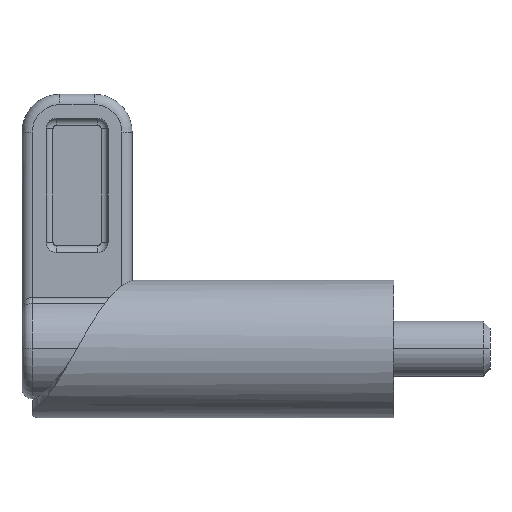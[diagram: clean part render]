
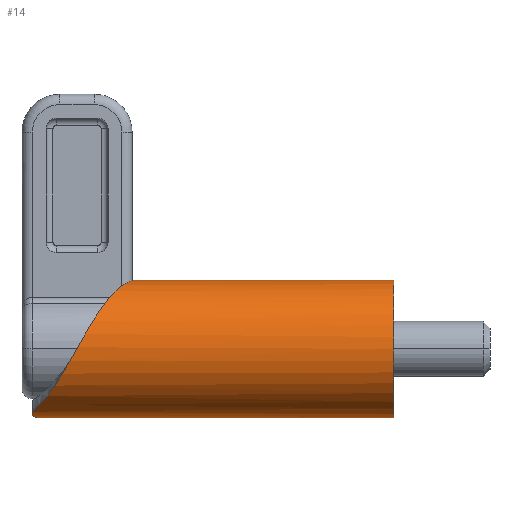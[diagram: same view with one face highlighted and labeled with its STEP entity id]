
A CAD part, left-side view. The second image highlights one B-rep face of the part: STEP entity #14.
In plain terms, the highlighted cylindrical face has radius 10 mm (diameter 20 mm), a partial arc.
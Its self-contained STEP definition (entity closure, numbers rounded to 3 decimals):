
#14 = ADVANCED_FACE ( 'NONE', ( #1708 ), #772, .T. ) ;
#41 = CARTESIAN_POINT ( 'NONE',  ( 0., 37.8, 10. ) ) ;
#60 = CARTESIAN_POINT ( 'NONE',  ( -0.36, 37.812, 9.995 ) ) ;
#77 = CARTESIAN_POINT ( 'NONE',  ( -2.057, 38.369, 9.786 ) ) ;
#133 = VERTEX_POINT ( 'NONE', #41 ) ;
#134 = DIRECTION ( 'NONE',  ( 0., 0., 1. ) ) ;
#175 = CARTESIAN_POINT ( 'NONE',  ( -9.683, 47.494, -2.551 ) ) ;
#208 = CARTESIAN_POINT ( 'NONE',  ( -3.078, 38.962, 9.529 ) ) ;
#338 = AXIS2_PLACEMENT_3D ( 'NONE', #1620, #567, #134 ) ;
#366 = CARTESIAN_POINT ( 'NONE',  ( 0., 0., -10. ) ) ;
#367 = ORIENTED_EDGE ( 'NONE', *, *, #1451, .F. ) ;
#371 = CARTESIAN_POINT ( 'NONE',  ( 0., 0., -10. ) ) ;
#381 = ORIENTED_EDGE ( 'NONE', *, *, #957, .T. ) ;
#414 = LINE ( 'NONE', #371, #1116 ) ;
#435 = CARTESIAN_POINT ( 'NONE',  ( -9.789, 44.849, 2.111 ) ) ;
#446 = CARTESIAN_POINT ( 'NONE',  ( -1.574, 52.101, -9.883 ) ) ;
#448 = CARTESIAN_POINT ( 'NONE',  ( -5.871, 40.728, 8.112 ) ) ;
#456 = B_SPLINE_CURVE_WITH_KNOTS ( 'NONE', 3,
 ( #663, #2429, #446, #938, #1541, #909, #2670, #2200 ),
 .UNSPECIFIED., .F., .F.,
 ( 4, 2, 2, 4 ),
 ( 0., 0.001, 0.002, 0.002 ),
 .UNSPECIFIED. ) ;
#517 = CIRCLE ( 'NONE', #338, 10. ) ;
#555 = CARTESIAN_POINT ( 'NONE',  ( 0., 0., 0. ) ) ;
#556 = CARTESIAN_POINT ( 'NONE',  ( -4.599, 52.204, -8.896 ) ) ;
#567 = DIRECTION ( 'NONE',  ( 0., 1., 0. ) ) ;
#595 = ORIENTED_EDGE ( 'NONE', *, *, #2477, .T. ) ;
#601 = B_SPLINE_CURVE_WITH_KNOTS ( 'NONE', 3,
 ( #2700, #737, #60, #913, #1161, #696, #2247, #2482 ),
 .UNSPECIFIED., .F., .F.,
 ( 4, 2, 2, 4 ),
 ( 0.019, 0.019, 0.02, 0.021 ),
 .UNSPECIFIED. ) ;
#604 = DIRECTION ( 'NONE',  ( 0., 0., -1. ) ) ;
#622 = CARTESIAN_POINT ( 'NONE',  ( 0., 0., 10. ) ) ;
#625 = CARTESIAN_POINT ( 'NONE',  ( -9.537, 47.788, -3.053 ) ) ;
#639 = CARTESIAN_POINT ( 'NONE',  ( -9.896, 46.909, -1.532 ) ) ;
#653 = EDGE_CURVE ( 'NONE', #1248, #1113, #2447, .T. ) ;
#663 = CARTESIAN_POINT ( 'NONE',  ( -2.261, 52.5, -9.741 ) ) ;
#665 = CARTESIAN_POINT ( 'NONE',  ( -9.232, 43.819, 3.852 ) ) ;
#696 = CARTESIAN_POINT ( 'NONE',  ( -1.419, 38.043, 9.905 ) ) ;
#737 = CARTESIAN_POINT ( 'NONE',  ( -0.18, 37.8, 10. ) ) ;
#772 = CYLINDRICAL_SURFACE ( 'NONE', #1363, 10. ) ;
#829 = DIRECTION ( 'NONE',  ( 0., -1., 0. ) ) ;
#837 = CARTESIAN_POINT ( 'NONE',  ( -4.062, 39.554, 9.153 ) ) ;
#874 = CARTESIAN_POINT ( 'NONE',  ( 0., 52.5, 0. ) ) ;
#909 = CARTESIAN_POINT ( 'NONE',  ( -0.402, 51.815, -9.994 ) ) ;
#913 = CARTESIAN_POINT ( 'NONE',  ( -0.718, 37.861, 9.976 ) ) ;
#932 = EDGE_CURVE ( 'NONE', #1318, #1863, #414, .T. ) ;
#938 = CARTESIAN_POINT ( 'NONE',  ( -0.996, 51.921, -9.952 ) ) ;
#957 = EDGE_CURVE ( 'NONE', #1248, #2303, #2731, .T. ) ;
#1058 = CARTESIAN_POINT ( 'NONE',  ( -9.962, 46.616, -1.016 ) ) ;
#1089 = CARTESIAN_POINT ( 'NONE',  ( -2.572, 38.668, 9.678 ) ) ;
#1113 = VERTEX_POINT ( 'NONE', #1551 ) ;
#1116 = VECTOR ( 'NONE', #2179, 1000. ) ;
#1119 = CARTESIAN_POINT ( 'NONE',  ( -9.584, 44.409, 2.865 ) ) ;
#1161 = CARTESIAN_POINT ( 'NONE',  ( -0.898, 37.898, 9.961 ) ) ;
#1189 = ORIENTED_EDGE ( 'NONE', *, *, #932, .T. ) ;
#1248 = VERTEX_POINT ( 'NONE', #2082 ) ;
#1307 = CARTESIAN_POINT ( 'NONE',  ( -7.475, 50.143, -6.663 ) ) ;
#1318 = VERTEX_POINT ( 'NONE', #2590 ) ;
#1363 = AXIS2_PLACEMENT_3D ( 'NONE', #555, #2591, #604 ) ;
#1436 = DIRECTION ( 'NONE',  ( 0., -1., 0. ) ) ;
#1451 = EDGE_CURVE ( 'NONE', #133, #2762, #2325, .T. ) ;
#1498 = CARTESIAN_POINT ( 'NONE',  ( -9.163, 48.381, -4.039 ) ) ;
#1515 = CARTESIAN_POINT ( 'NONE',  ( -9.885, 45.141, 1.599 ) ) ;
#1528 = CARTESIAN_POINT ( 'NONE',  ( -7.244, 41.761, 6.898 ) ) ;
#1541 = CARTESIAN_POINT ( 'NONE',  ( -0.799, 51.875, -9.97 ) ) ;
#1544 = CARTESIAN_POINT ( 'NONE',  ( -5.056, 51.909, -8.643 ) ) ;
#1551 = CARTESIAN_POINT ( 'NONE',  ( -2.057, 38.369, 9.786 ) ) ;
#1558 = CARTESIAN_POINT ( 'NONE',  ( -8.122, 42.498, 5.927 ) ) ;
#1559 = CARTESIAN_POINT ( 'NONE',  ( -2.261, 52.5, -9.741 ) ) ;
#1612 = ORIENTED_EDGE ( 'NONE', *, *, #1786, .T. ) ;
#1620 = CARTESIAN_POINT ( 'NONE',  ( 0., 0., 0. ) ) ;
#1683 = EDGE_CURVE ( 'NONE', #2303, #1318, #456, .T. ) ;
#1708 = FACE_OUTER_BOUND ( 'NONE', #1832, .T. ) ;
#1726 = CARTESIAN_POINT ( 'NONE',  ( -9.33, 43.968, 3.607 ) ) ;
#1742 = CARTESIAN_POINT ( 'NONE',  ( -4.117, 52.5, -9.113 ) ) ;
#1765 = DIRECTION ( 'NONE',  ( 0., 0., -1. ) ) ;
#1772 = CARTESIAN_POINT ( 'NONE',  ( -8.129, 49.554, -5.848 ) ) ;
#1781 = ORIENTED_EDGE ( 'NONE', *, *, #653, .F. ) ;
#1786 = EDGE_CURVE ( 'NONE', #1863, #2762, #517, .T. ) ;
#1832 = EDGE_LOOP ( 'NONE', ( #367, #595, #1781, #381, #2295, #1189, #1612 ) ) ;
#1863 = VERTEX_POINT ( 'NONE', #366 ) ;
#1946 = CARTESIAN_POINT ( 'NONE',  ( -7.111, 50.44, -7.05 ) ) ;
#1965 = CARTESIAN_POINT ( 'NONE',  ( -6.48, 41.169, 7.621 ) ) ;
#1992 = CARTESIAN_POINT ( 'NONE',  ( -5.441, 40.436, 8.406 ) ) ;
#2082 = CARTESIAN_POINT ( 'NONE',  ( -4.117, 52.5, -9.113 ) ) ;
#2155 = CARTESIAN_POINT ( 'NONE',  ( -5.924, 51.32, -8.073 ) ) ;
#2179 = DIRECTION ( 'NONE',  ( 0., -1., 0. ) ) ;
#2187 = CARTESIAN_POINT ( 'NONE',  ( -4.538, 39.85, 8.926 ) ) ;
#2200 = CARTESIAN_POINT ( 'NONE',  ( 0., 51.8, -10. ) ) ;
#2216 = CARTESIAN_POINT ( 'NONE',  ( -8.939, 48.675, -4.513 ) ) ;
#2247 = CARTESIAN_POINT ( 'NONE',  ( -1.749, 38.185, 9.851 ) ) ;
#2295 = ORIENTED_EDGE ( 'NONE', *, *, #1683, .T. ) ;
#2303 = VERTEX_POINT ( 'NONE', #1559 ) ;
#2305 = VECTOR ( 'NONE', #1436, 1000. ) ;
#2306 = AXIS2_PLACEMENT_3D ( 'NONE', #874, #829, #1765 ) ;
#2325 = LINE ( 'NONE', #2563, #2305 ) ;
#2391 = CARTESIAN_POINT ( 'NONE',  ( -6.336, 51.028, -7.754 ) ) ;
#2429 = CARTESIAN_POINT ( 'NONE',  ( -1.931, 52.274, -9.818 ) ) ;
#2431 = CARTESIAN_POINT ( 'NONE',  ( -6.677, 41.316, 7.449 ) ) ;
#2447 = B_SPLINE_CURVE_WITH_KNOTS ( 'NONE', 3,
 ( #1742, #556, #1544, #2155, #2391, #1946, #1307, #1772, #2610, #2216, #1498, #625, #175, #639, #1058, #2658, #2841, #1515, #435, #1119, #2629, #1726, #665, #2825, #1558, #1528, #2595, #2431, #1965, #448, #1992, #2187, #837, #208, #1089, #77 ),
 .UNSPECIFIED., .F., .F.,
 ( 4, 2, 2, 2, 2, 2, 2, 2, 2, 2, 2, 2, 2, 2, 2, 2, 2, 4 ),
 ( 0., 0.002, 0.004, 0.005, 0.007, 0.009, 0.011, 0.013, 0.014, 0.016, 0.017, 0.018, 0.021, 0.022, 0.023, 0.025, 0.027, 0.029 ),
 .UNSPECIFIED. ) ;
#2477 = EDGE_CURVE ( 'NONE', #133, #1113, #601, .T. ) ;
#2482 = CARTESIAN_POINT ( 'NONE',  ( -2.057, 38.369, 9.786 ) ) ;
#2563 = CARTESIAN_POINT ( 'NONE',  ( 0., 0., 10. ) ) ;
#2590 = CARTESIAN_POINT ( 'NONE',  ( 0., 51.8, -10. ) ) ;
#2591 = DIRECTION ( 'NONE',  ( 0., -1., 0. ) ) ;
#2595 = CARTESIAN_POINT ( 'NONE',  ( -7.06, 41.612, 7.087 ) ) ;
#2610 = CARTESIAN_POINT ( 'NONE',  ( -8.422, 49.262, -5.417 ) ) ;
#2629 = CARTESIAN_POINT ( 'NONE',  ( -9.506, 44.262, 3.114 ) ) ;
#2658 = CARTESIAN_POINT ( 'NONE',  ( -10.014, 46.027, 0.03 ) ) ;
#2670 = CARTESIAN_POINT ( 'NONE',  ( -0.202, 51.8, -10. ) ) ;
#2700 = CARTESIAN_POINT ( 'NONE',  ( 0., 37.8, 10. ) ) ;
#2731 = CIRCLE ( 'NONE', #2306, 10. ) ;
#2762 = VERTEX_POINT ( 'NONE', #622 ) ;
#2825 = CARTESIAN_POINT ( 'NONE',  ( -8.693, 43.078, 5.053 ) ) ;
#2841 = CARTESIAN_POINT ( 'NONE',  ( -9.998, 45.729, 0.561 ) ) ;
